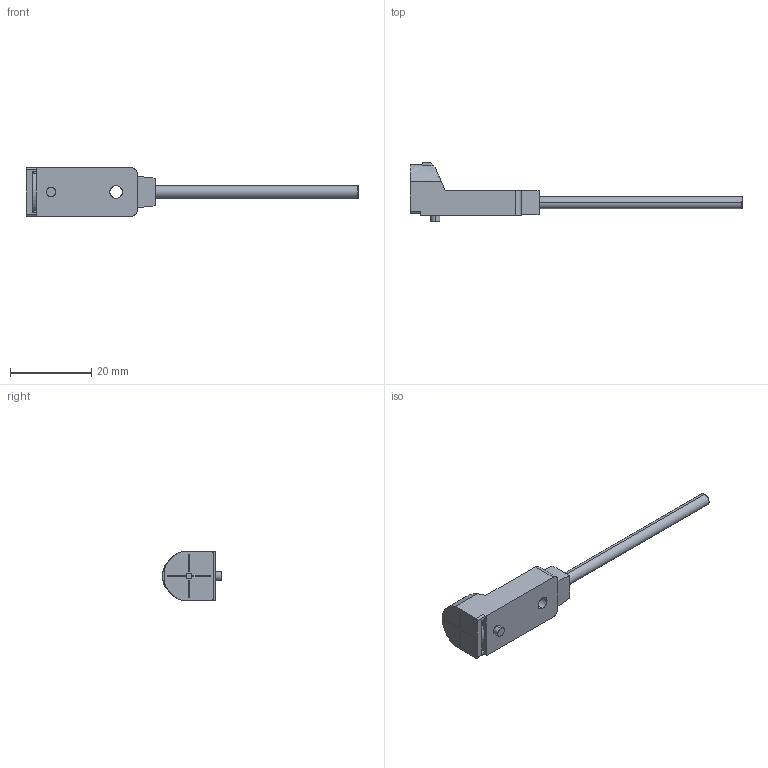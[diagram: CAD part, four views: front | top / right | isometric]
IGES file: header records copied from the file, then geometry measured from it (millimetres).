
Start section: SolidWorks IGES file using analytic representation for surfaces
Global section: file name: C:\catalog\gx-h12a.IGS; native system: SolidWorks 2005 by SolidWorks Corporation; preprocessor: SolidWorks 2005 by SolidWorks Corporation; author: kfh094; date: 070920.191956; units: millimetre
Bounding box: 81.8 x 14.5 x 12 mm (x, y, z)
Surface area: 1995.5 mm2 (no closed solid volume)
Topology: 0 solids, 0 shells, 72 faces, 748 edges, 748 vertices
Faces by surface type: bspline 52, revolution 20
